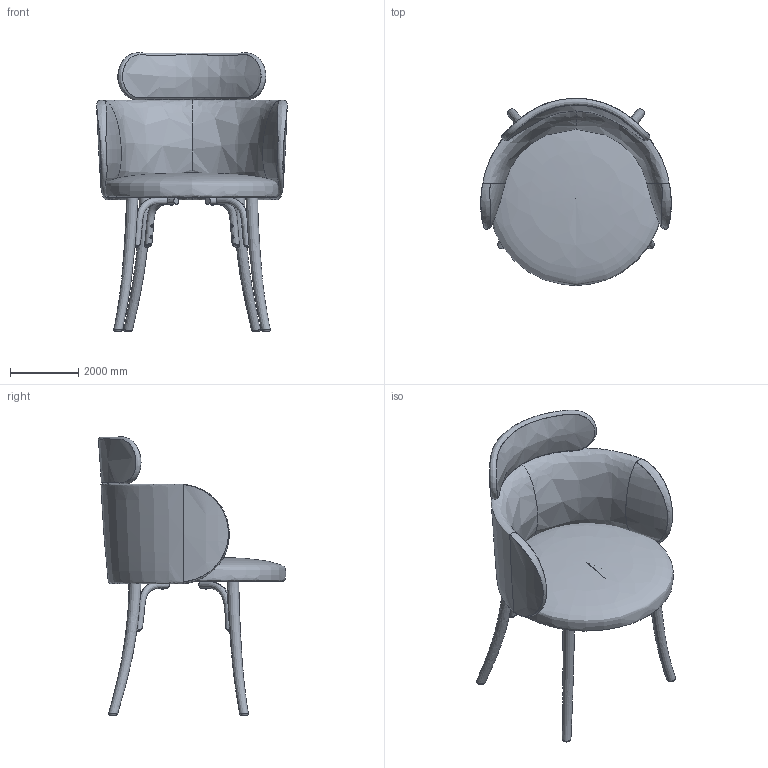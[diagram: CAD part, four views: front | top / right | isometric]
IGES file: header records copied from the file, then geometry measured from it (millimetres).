
Global section: file name: \\192.168.4.99\ufficio_tecnico\3d per sito\malit\malit.igs; native system: Rhinoceros ( Aug 10 2015 ); preprocessor: Trout Lake IGES 012 Aug 10 2015; date: 170609.082023; units: centimetre
Bounding box: 5576.75 x 5477.38 x 8137.55 mm (x, y, z)
Surface area: 184792685.4 mm2 (no closed solid volume)
Topology: 0 solids, 0 shells, 680 faces, 7692 edges, 7577 vertices
Faces by surface type: bspline 680
